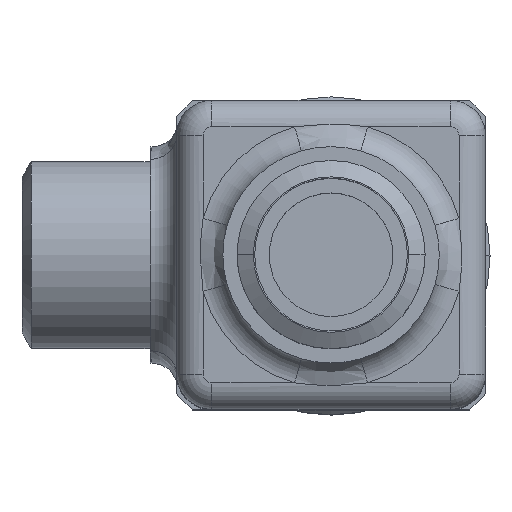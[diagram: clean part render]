
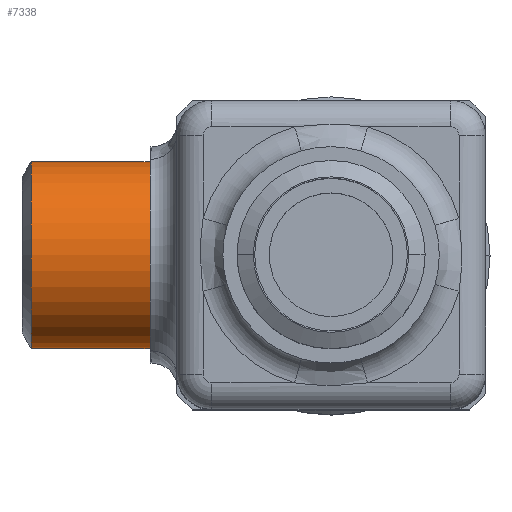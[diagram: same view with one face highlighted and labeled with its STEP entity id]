
A CAD part, top view. The second image highlights one B-rep face of the part: STEP entity #7338.
In plain terms, the highlighted cylindrical face has radius 10.6 mm (diameter 21.2 mm), a partial arc.
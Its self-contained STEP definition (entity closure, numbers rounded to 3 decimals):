
#18 = CARTESIAN_POINT ( 'NONE',  ( -33.961, -10.6, 14.5 ) ) ;
#1086 = LINE ( 'NONE', #1087, #1088 ) ;
#1087 = CARTESIAN_POINT ( 'NONE',  ( -20.5, 10.6, 14.5 ) ) ;
#1088 = VECTOR ( 'NONE', #1089, 1000. ) ;
#1089 = DIRECTION ( 'NONE',  ( -1., 0., 0. ) ) ;
#1186 = EDGE_LOOP ( 'NONE', ( #7157, #2937, #7530, #7421 ) ) ;
#1193 = LINE ( 'NONE', #1194, #1195 ) ;
#1194 = CARTESIAN_POINT ( 'NONE',  ( -20.5, -10.6, 14.5 ) ) ;
#1195 = VECTOR ( 'NONE', #1196, 1000. ) ;
#1196 = DIRECTION ( 'NONE',  ( -1., 0., 0. ) ) ;
#1953 = EDGE_CURVE ( 'NONE', #6702, #6608, #10238, .T. ) ;
#2581 = CARTESIAN_POINT ( 'NONE',  ( -33.961, 10.6, 14.5 ) ) ;
#2842 = EDGE_CURVE ( 'NONE', #6905, #6702, #1086, .T. ) ;
#2937 = ORIENTED_EDGE ( 'NONE', *, *, #2842, .T. ) ;
#3555 = CIRCLE ( 'NONE', #3556, 10.6 ) ;
#3556 = AXIS2_PLACEMENT_3D ( 'NONE', #3557, #3558, #3559 ) ;
#3557 = CARTESIAN_POINT ( 'NONE',  ( -20.5, 0., 14.5 ) ) ;
#3558 = DIRECTION ( 'NONE',  ( -1., 0., 0. ) ) ;
#3559 = DIRECTION ( 'NONE',  ( 0., -1., 0. ) ) ;
#4737 = FACE_OUTER_BOUND ( 'NONE', #1186, .T. ) ;
#4738 = CYLINDRICAL_SURFACE ( 'NONE', #4739, 10.6 ) ;
#4739 = AXIS2_PLACEMENT_3D ( 'NONE', #4740, #4741, #4742 ) ;
#4740 = CARTESIAN_POINT ( 'NONE',  ( -20.5, 0., 14.5 ) ) ;
#4741 = DIRECTION ( 'NONE',  ( -1., 0., 0. ) ) ;
#4742 = DIRECTION ( 'NONE',  ( 0., -1., 0. ) ) ;
#6608 = VERTEX_POINT ( 'NONE', #18 ) ;
#6702 = VERTEX_POINT ( 'NONE', #2581 ) ;
#6905 = VERTEX_POINT ( 'NONE', #7892 ) ;
#6921 = VERTEX_POINT ( 'NONE', #7971 ) ;
#7100 = EDGE_CURVE ( 'NONE', #6921, #6608, #1193, .T. ) ;
#7157 = ORIENTED_EDGE ( 'NONE', *, *, #7193, .T. ) ;
#7193 = EDGE_CURVE ( 'NONE', #6921, #6905, #3555, .T. ) ;
#7338 = ADVANCED_FACE ( 'NONE', ( #4737 ), #4738, .T. ) ;
#7421 = ORIENTED_EDGE ( 'NONE', *, *, #7100, .F. ) ;
#7530 = ORIENTED_EDGE ( 'NONE', *, *, #1953, .T. ) ;
#7892 = CARTESIAN_POINT ( 'NONE',  ( -20.5, 10.6, 14.5 ) ) ;
#7971 = CARTESIAN_POINT ( 'NONE',  ( -20.5, -10.6, 14.5 ) ) ;
#10238 = CIRCLE ( 'NONE', #10239, 10.6 ) ;
#10239 = AXIS2_PLACEMENT_3D ( 'NONE', #10240, #10241, #10242 ) ;
#10240 = CARTESIAN_POINT ( 'NONE',  ( -33.961, 0., 14.5 ) ) ;
#10241 = DIRECTION ( 'NONE',  ( 1., 0., 0. ) ) ;
#10242 = DIRECTION ( 'NONE',  ( 0., 1., 0. ) ) ;
